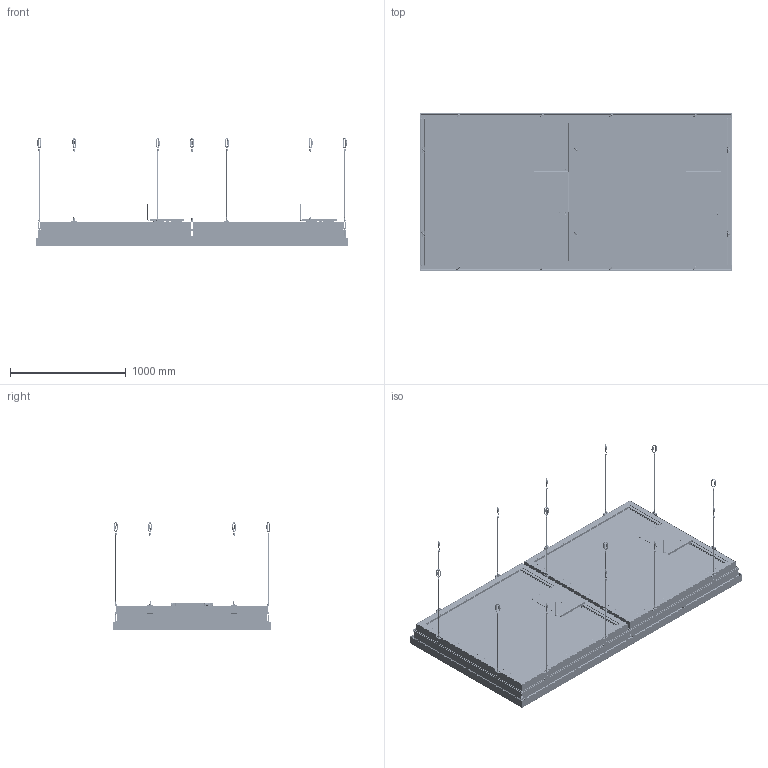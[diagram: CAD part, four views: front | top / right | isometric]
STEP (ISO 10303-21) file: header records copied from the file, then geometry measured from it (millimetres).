
FILE_DESCRIPTION (( 'STEP AP203' ), '1' );
FILE_NAME ('LSL-LUMISKY-4x4-Suspended-2H-1V.STEP', '2025-06-30T18:30:46', ( '' ), ( '' ), 'SwSTEP 2.0', 'SolidWorks 2023', '' );
FILE_SCHEMA (( 'CONFIG_CONTROL_DESIGN' ));
Length unit declared in the file: millimetre
Products named in the file (64): AC JUNCTION BOX V4_short; SUSPENSION_LUMISKY; connector-4X4; Cover of gripper V7.4; M3 x 3 Set Screw_91390A097; AC CABLE COLLETOR PLATE; AC CABLE CONNECTOR WITH BX CABLE; Assem OF MOUNTING RECTANGULAR with gripper V7.4_SUSPENSION CABLE; M5 SCREW; long M6 nut-4X4; PORSCHE RAPID LINK PORCHE20160912.; Assem OF MOUNTING RECTANGULAR V6.0_WITH SUSPENSION CABLE; AC CABLE COLLETOR MAIN BODY; sub_assm_mullion 4x4ft_2 X 1; HLG-320H-24A-4X4; M4 x 0.7 x12 flat screw for magnet_91294A192; GRID 4x4ft_2 X 1; M8 PLATE NUT; Assem of electrical plate ASTRA 4P V4.0; Base of gripper V7.4; 1030 1770_Default<As Machined>; 1030 881_Default<As Machined>; PORSCHE ASSEMBLE hanging cable  PO170106.; Mirrorsmall support plate-4X4; DIFFUSER^ASSM_FLS 2125; DC JUNC ASSEM^Assem collection line V4.0-4X4_ASTRA STATIC 4P; AC CABLE COLLETOR; Assem of Aluminum extrude for magnet V7.2; M4 SCREW; Assem 1030 639_MIRROR; small support plate-4X4; track-4X4; mounting rectangular V7.1; frame 1030 and 2125 2X2 V6.0_2125<As Machined>; extrusion for magnet V7.1; N52 magnet 8mm Green; Assem of gripper of lumisky V7.4; ASSM_FLS 2125_WITH ECU; mounting rectangular V6.0; DC JUNCTION BOX only cover V4-4X4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
Assembly tree (107 placements, depth 8):
  LSL-LUMISKY-4x4-Suspended-2H-1V
    GRID 4x4ft_2 X 1
      Sub_assm_cb1030 4x4ft_2 X 1
        Assem 1030 1770  x2
          1030 1770_Default<As Machined>
          Assem OF MOUNTING RECTANGULAR with gripper V7.4_SUSPENSION CABLE
            mounting rectangular V7.1
            91290A351_Alloy Steel Socket Head Screw
            SUSPENSION_LUMISKY
              Assem of gripper of lumisky V7.4
                Base of gripper V7.4
                Cover of gripper V7.4
                secure screw V7.4
                M3 x 3 Set Screw_91390A097
              PORSCHE ASSEMBLE hanging cable  PO170106.
                PORSCHE AIRCRAFT CABLE PORCHE160803._with cable 150mm
                PORSCHE RAPID LINK PORCHE20160912.
            M6 washer WITH SECURE V7.1
          Assem of Aluminum extrude for magnet V7.2
            extrusion for magnet V7.1
            M4 x 0.7 x12 flat screw for magnet_91294A192
            N52 magnet 8mm Green
        Assem 1030 881  x2
          1030 881_Default<As Machined>
          Assem OF MOUNTING RECTANGULAR with gripper V7.4_SUSPENSION CABLE
            mounting rectangular V7.1
            91290A351_Alloy Steel Socket Head Screw
            SUSPENSION_LUMISKY
              Assem of gripper of lumisky V7.4
                Base of gripper V7.4
                Cover of gripper V7.4
                secure screw V7.4
                M3 x 3 Set Screw_91390A097
              PORSCHE ASSEMBLE hanging cable  PO170106.
                PORSCHE AIRCRAFT CABLE PORCHE160803._with cable 150mm
                PORSCHE RAPID LINK PORCHE20160912.
            M6 washer WITH SECURE V7.1
          Assem of Aluminum extrude for magnet V7.2
            extrusion for magnet V7.1
            M4 x 0.7 x12 flat screw for magnet_91294A192
            N52 magnet 8mm Green
        Assem 1030 639_MIRROR  x2
          1030 639_Default<As Machined>
          Assem OF MOUNTING RECTANGULAR V6.0_WITH SUSPENSION CABLE
            mounting rectangular V6.0
            91290A351_Alloy Steel Socket Head Screw
            M5 SCREW  x2
            M6 washer WITH SECURE V7.1
            SUSPENSION_LUMISKY
              Assem of gripper of lumisky V7.4
                Base of gripper V7.4
                Cover of gripper V7.4
                secure screw V7.4
                M3 x 3 Set Screw_91390A097
              PORSCHE ASSEMBLE hanging cable  PO170106.
                PORSCHE AIRCRAFT CABLE PORCHE160803._with cable 150mm
                PORSCHE RAPID LINK PORCHE20160912.
          Assem of Aluminum extrude for magnet V7.2
            extrusion for magnet V7.1
            M4 x 0.7 x12 flat screw for magnet_91294A192
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Bounding box: 2682 x 1366 x 927.67 mm (x, y, z)
Topology: 449 solids, 455 shells, 19141 faces, 50826 edges, 32624 vertices
Faces by surface type: plane 8360, cylinder 7208, bspline 1722, cone 1359, torus 292, sphere 200
Entity records: 171719 total; most frequent: CARTESIAN_POINT 66884, ORIENTED_EDGE 21402, DIRECTION 18707, EDGE_CURVE 10701, VERTEX_POINT 7014, LINE 6989, VECTOR 6989, AXIS2_PLACEMENT_3D 5859
